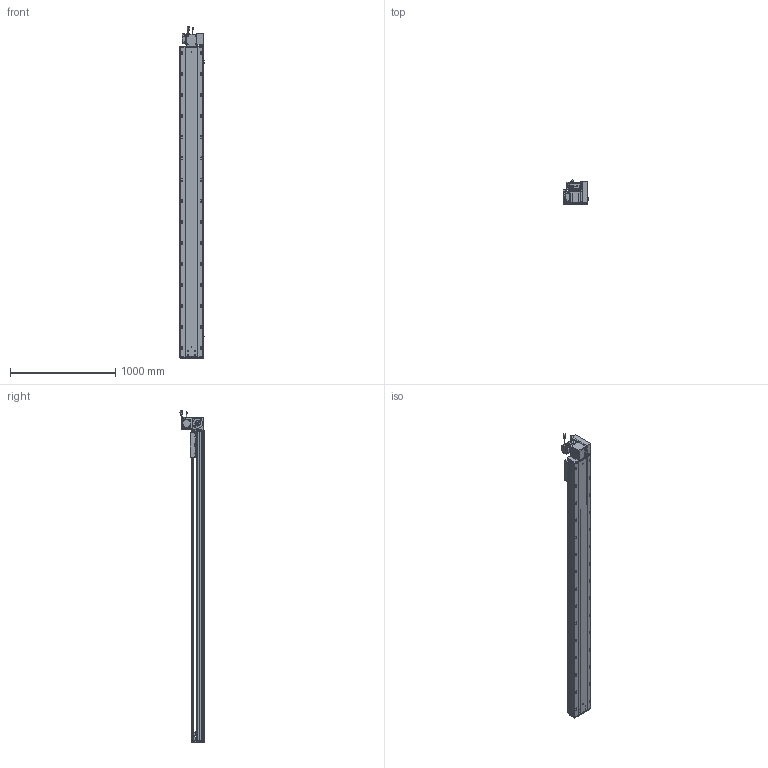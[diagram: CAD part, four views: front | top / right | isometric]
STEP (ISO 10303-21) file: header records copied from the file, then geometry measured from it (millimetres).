
FILE_DESCRIPTION (( 'STEP AP203' ), '1' );
FILE_NAME ('RY220-T-300-UR.SLDASM_2600.step', '2022-07-25T08:45:34', ( '' ), ( '' ), 'SwSTEP 2.0', 'SolidWorks 2016', '' );
FILE_SCHEMA (( 'CONFIG_CONTROL_DESIGN' ));
Length unit declared in the file: millimetre
Products named in the file (14): RY220-T-湍謫欶(鍼踢); RY220-俋离672覜茼んえ; 110A-T-肮祭謫釱傷裔; 覜茼ん672; RY220-T-蛌殏萇儂假蚾啣(750W); RY220-T-300-UR.SLDASM_2600; RY220-T菁釱-300_2600; 滅袉蝶18-15; RY220圉猾敕々湍臏賑輸; RY220翋肮祭謫釱; RY220翋肮祭謫裔啣; RY220-同步轮副支撑座6304×2; RY220-T-300-奻裔啣_2600; 怢湛750W_ECMA-CX0807ES
Assembly tree (18 placements, depth 2):
  RY220-T-300-UR.SLDASM_2600
    RY220-T菁釱-300_2600
    RY220翋肮祭謫釱
    覜茼ん672  x3
    RY220圉猾敕々湍臏賑輸
    RY220-T-300-奻裔啣_2600
    RY220-俋离672覜茼んえ
    滅袉蝶18-15  x3
    RY220翋肮祭謫裔啣  x2
    110A-T-肮祭謫釱傷裔
    怢湛750W_ECMA-CX0807ES
    RY220-T-湍謫欶(鍼踢)
    RY220-T-蛌殏萇儂假蚾啣(750W)
    RY220-同步轮副支撑座6304×2
Bounding box: 238.7 x 231.74 x 3153.27 mm (x, y, z)
Volume: 22616858.7 mm3; surface area: 6954828 mm2
Topology: 19 solids, 19 shells, 2944 faces, 8139 edges, 5106 vertices
Faces by surface type: cylinder 1440, plane 1069, cone 353, bspline 56, sphere 16, torus 10
Entity records: 98099 total; most frequent: CARTESIAN_POINT 27705, ORIENTED_EDGE 14554, DIRECTION 14012, EDGE_CURVE 7277, AXIS2_PLACEMENT_3D 5042, VERTEX_POINT 4730, LINE 3928, VECTOR 3928
